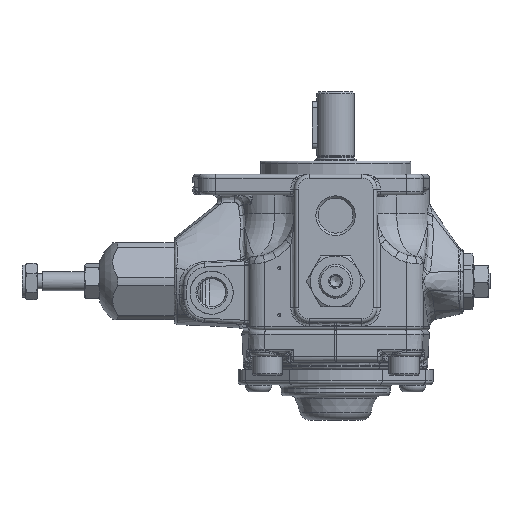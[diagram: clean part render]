
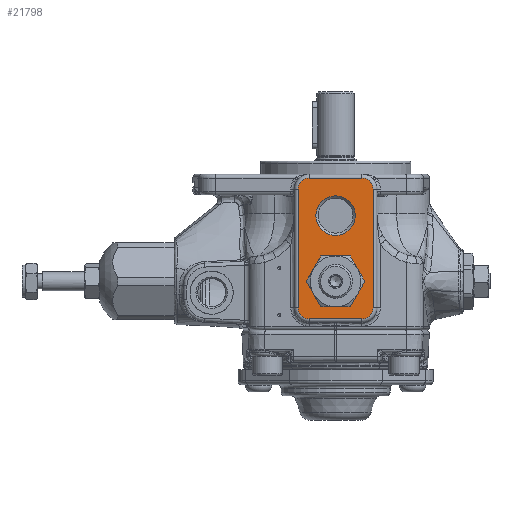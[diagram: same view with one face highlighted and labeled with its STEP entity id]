
A CAD part, left-side view. The second image highlights one B-rep face of the part: STEP entity #21798.
In plain terms, the highlighted planar face has unit normal (-1, 0, 0).
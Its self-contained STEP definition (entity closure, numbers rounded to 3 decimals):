
#2020=LINE('',#36274,#2942);
#2021=LINE('',#36278,#2943);
#2022=LINE('',#36282,#2944);
#2023=LINE('',#36285,#2945);
#2942=VECTOR('',#27701,10.);
#2943=VECTOR('',#27704,10.);
#2944=VECTOR('',#27707,10.);
#2945=VECTOR('',#27710,10.);
#3823=FACE_BOUND('',#5745,.T.);
#3824=FACE_BOUND('',#5746,.T.);
#4353=FACE_OUTER_BOUND('',#5744,.T.);
#5744=EDGE_LOOP('',(#15558,#15559,#15560,#15561,#15562,#15563,#15564,#15565));
#5745=EDGE_LOOP('',(#15566,#15567,#15568,#15569,#15570,#15571));
#5746=EDGE_LOOP('',(#15572,#15573));
#6665=CIRCLE('',#22703,13.5);
#6666=CIRCLE('',#22705,13.5);
#6667=CIRCLE('',#22707,13.5);
#6668=CIRCLE('',#22709,13.5);
#6669=CIRCLE('',#22711,13.5);
#6670=CIRCLE('',#22713,13.5);
#7151=CIRCLE('',#23653,10.5);
#7152=CIRCLE('',#23654,10.5);
#7182=CIRCLE('',#23709,6.);
#7183=CIRCLE('',#23710,6.);
#7184=CIRCLE('',#23711,6.);
#7185=CIRCLE('',#23712,6.);
#8061=VERTEX_POINT('',#31313);
#8062=VERTEX_POINT('',#31317);
#8063=VERTEX_POINT('',#31323);
#8066=VERTEX_POINT('',#31334);
#8068=VERTEX_POINT('',#31344);
#8069=VERTEX_POINT('',#31353);
#8806=VERTEX_POINT('',#36019);
#8807=VERTEX_POINT('',#36020);
#8846=VERTEX_POINT('',#36270);
#8847=VERTEX_POINT('',#36271);
#8848=VERTEX_POINT('',#36273);
#8849=VERTEX_POINT('',#36275);
#8850=VERTEX_POINT('',#36277);
#8851=VERTEX_POINT('',#36279);
#8852=VERTEX_POINT('',#36281);
#8853=VERTEX_POINT('',#36283);
#9998=EDGE_CURVE('',#8061,#8062,#6665,.T.);
#10000=EDGE_CURVE('',#8062,#8063,#6666,.T.);
#10004=EDGE_CURVE('',#8066,#8061,#6667,.T.);
#10007=EDGE_CURVE('',#8068,#8066,#6668,.T.);
#10009=EDGE_CURVE('',#8063,#8069,#6669,.T.);
#10012=EDGE_CURVE('',#8069,#8068,#6670,.T.);
#11166=EDGE_CURVE('',#8806,#8807,#7151,.T.);
#11167=EDGE_CURVE('',#8807,#8806,#7152,.T.);
#11228=EDGE_CURVE('',#8846,#8847,#7182,.T.);
#11229=EDGE_CURVE('',#8848,#8846,#2020,.T.);
#11230=EDGE_CURVE('',#8849,#8848,#7183,.T.);
#11231=EDGE_CURVE('',#8850,#8849,#2021,.T.);
#11232=EDGE_CURVE('',#8851,#8850,#7184,.T.);
#11233=EDGE_CURVE('',#8852,#8851,#2022,.T.);
#11234=EDGE_CURVE('',#8853,#8852,#7185,.T.);
#11235=EDGE_CURVE('',#8847,#8853,#2023,.T.);
#15558=ORIENTED_EDGE('',*,*,#11228,.F.);
#15559=ORIENTED_EDGE('',*,*,#11229,.F.);
#15560=ORIENTED_EDGE('',*,*,#11230,.F.);
#15561=ORIENTED_EDGE('',*,*,#11231,.F.);
#15562=ORIENTED_EDGE('',*,*,#11232,.F.);
#15563=ORIENTED_EDGE('',*,*,#11233,.F.);
#15564=ORIENTED_EDGE('',*,*,#11234,.F.);
#15565=ORIENTED_EDGE('',*,*,#11235,.F.);
#15566=ORIENTED_EDGE('',*,*,#9998,.T.);
#15567=ORIENTED_EDGE('',*,*,#10000,.T.);
#15568=ORIENTED_EDGE('',*,*,#10009,.T.);
#15569=ORIENTED_EDGE('',*,*,#10012,.T.);
#15570=ORIENTED_EDGE('',*,*,#10007,.T.);
#15571=ORIENTED_EDGE('',*,*,#10004,.T.);
#15572=ORIENTED_EDGE('',*,*,#11166,.T.);
#15573=ORIENTED_EDGE('',*,*,#11167,.T.);
#19778=PLANE('',#23708);
#21798=ADVANCED_FACE('',(#4353,#3823,#3824),#19778,.F.);
#22703=AXIS2_PLACEMENT_3D('',#31321,#25265,#25266);
#22705=AXIS2_PLACEMENT_3D('',#31328,#25269,#25270);
#22707=AXIS2_PLACEMENT_3D('',#31341,#25273,#25274);
#22709=AXIS2_PLACEMENT_3D('',#31351,#25277,#25278);
#22711=AXIS2_PLACEMENT_3D('',#31358,#25281,#25282);
#22713=AXIS2_PLACEMENT_3D('',#31367,#25285,#25286);
#23653=AXIS2_PLACEMENT_3D('',#36021,#27572,#27573);
#23654=AXIS2_PLACEMENT_3D('',#36022,#27574,#27575);
#23708=AXIS2_PLACEMENT_3D('',#36269,#27697,#27698);
#23709=AXIS2_PLACEMENT_3D('',#36272,#27699,#27700);
#23710=AXIS2_PLACEMENT_3D('',#36276,#27702,#27703);
#23711=AXIS2_PLACEMENT_3D('',#36280,#27705,#27706);
#23712=AXIS2_PLACEMENT_3D('',#36284,#27708,#27709);
#25265=DIRECTION('center_axis',(1.,0.,0.));
#25266=DIRECTION('ref_axis',(0.,1.,0.));
#25269=DIRECTION('center_axis',(1.,0.,0.));
#25270=DIRECTION('ref_axis',(0.,1.,0.));
#25273=DIRECTION('center_axis',(1.,0.,0.));
#25274=DIRECTION('ref_axis',(0.,1.,0.));
#25277=DIRECTION('center_axis',(1.,0.,0.));
#25278=DIRECTION('ref_axis',(0.,1.,0.));
#25281=DIRECTION('center_axis',(1.,0.,0.));
#25282=DIRECTION('ref_axis',(0.,1.,0.));
#25285=DIRECTION('center_axis',(1.,0.,0.));
#25286=DIRECTION('ref_axis',(0.,1.,0.));
#27572=DIRECTION('center_axis',(1.,0.,0.));
#27573=DIRECTION('ref_axis',(0.,-1.,0.));
#27574=DIRECTION('center_axis',(1.,0.,0.));
#27575=DIRECTION('ref_axis',(0.,-1.,0.));
#27697=DIRECTION('center_axis',(1.,0.,0.));
#27698=DIRECTION('ref_axis',(0.,0.,-1.));
#27699=DIRECTION('center_axis',(1.,0.,0.));
#27700=DIRECTION('ref_axis',(0.,-0.707,0.707));
#27701=DIRECTION('',(0.,-1.,0.));
#27702=DIRECTION('center_axis',(1.,0.,0.));
#27703=DIRECTION('ref_axis',(0.,0.707,0.707));
#27704=DIRECTION('',(0.,0.,1.));
#27705=DIRECTION('center_axis',(1.,0.,0.));
#27706=DIRECTION('ref_axis',(0.,0.707,-0.707));
#27707=DIRECTION('',(0.,1.,0.));
#27708=DIRECTION('center_axis',(1.,0.,0.));
#27709=DIRECTION('ref_axis',(0.,-0.707,-0.707));
#27710=DIRECTION('',(0.,0.,-1.));
#31313=CARTESIAN_POINT('',(-53.273,-30.4,-12.25));
#31317=CARTESIAN_POINT('',(-53.273,-30.4,-25.75));
#31321=CARTESIAN_POINT('Origin',(-53.273,-18.709,-19.));
#31323=CARTESIAN_POINT('',(-53.273,-18.709,-32.5));
#31328=CARTESIAN_POINT('Origin',(-53.273,-18.709,-19.));
#31334=CARTESIAN_POINT('',(-53.273,-18.709,-5.5));
#31341=CARTESIAN_POINT('Origin',(-53.273,-18.709,-19.));
#31344=CARTESIAN_POINT('',(-53.273,-7.017,-12.25));
#31351=CARTESIAN_POINT('Origin',(-53.273,-18.709,-19.));
#31353=CARTESIAN_POINT('',(-53.273,-7.017,-25.75));
#31358=CARTESIAN_POINT('Origin',(-53.273,-18.709,-19.));
#31367=CARTESIAN_POINT('Origin',(-53.273,-18.709,-19.));
#36019=CARTESIAN_POINT('',(-53.273,-29.209,16.));
#36020=CARTESIAN_POINT('',(-53.273,-8.209,16.));
#36021=CARTESIAN_POINT('Origin',(-53.273,-18.709,16.));
#36022=CARTESIAN_POINT('Origin',(-53.273,-18.709,16.));
#36269=CARTESIAN_POINT('Origin',(-53.273,-16.951,1.221));
#36270=CARTESIAN_POINT('',(-53.273,-32.709,36.));
#36271=CARTESIAN_POINT('',(-53.273,-38.709,30.));
#36272=CARTESIAN_POINT('Origin',(-53.273,-32.709,30.));
#36273=CARTESIAN_POINT('',(-53.273,-4.709,36.));
#36274=CARTESIAN_POINT('',(-53.273,-12.516,36.));
#36275=CARTESIAN_POINT('',(-53.273,1.291,30.));
#36276=CARTESIAN_POINT('Origin',(-53.273,-4.709,30.));
#36277=CARTESIAN_POINT('',(-53.273,1.291,-33.));
#36278=CARTESIAN_POINT('',(-53.273,1.291,13.75));
#36279=CARTESIAN_POINT('',(-53.273,-4.709,-39.));
#36280=CARTESIAN_POINT('Origin',(-53.273,-4.709,-33.));
#36281=CARTESIAN_POINT('',(-53.273,-32.709,-39.));
#36282=CARTESIAN_POINT('',(-53.273,-11.709,-39.));
#36283=CARTESIAN_POINT('',(-53.273,-38.709,-33.));
#36284=CARTESIAN_POINT('Origin',(-53.273,-32.709,-33.));
#36285=CARTESIAN_POINT('',(-53.273,-38.709,13.75));
